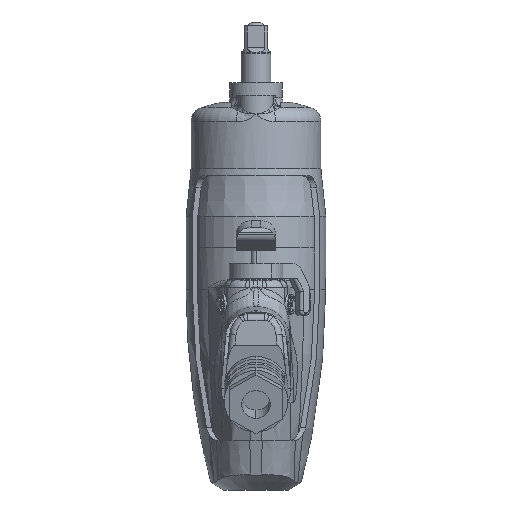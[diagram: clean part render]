
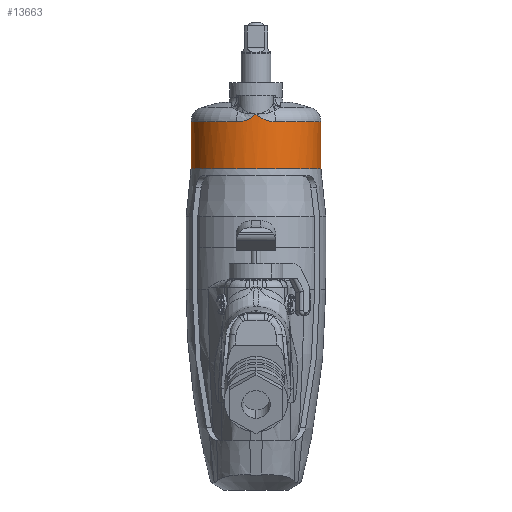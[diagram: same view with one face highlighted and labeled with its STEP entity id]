
A CAD part, front view. The second image highlights one B-rep face of the part: STEP entity #13663.
In plain terms, the highlighted cylindrical face has radius 26 mm (diameter 52 mm), a partial arc.
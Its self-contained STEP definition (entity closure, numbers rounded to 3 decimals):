
#508 = CARTESIAN_POINT ( 'NONE',  ( 0., -26., -30.617 ) ) ;
#1192 = ORIENTED_EDGE ( 'NONE', *, *, #26624, .T. ) ;
#1305 = EDGE_CURVE ( 'NONE', #42749, #52910, #45407, .T. ) ;
#1386 = DIRECTION ( 'NONE',  ( 0., 0., 1. ) ) ;
#1404 = CARTESIAN_POINT ( 'NONE',  ( 5.006, -25.523, -33.342 ) ) ;
#2756 = DIRECTION ( 'NONE',  ( -1., 0., 0. ) ) ;
#4030 = ORIENTED_EDGE ( 'NONE', *, *, #51418, .T. ) ;
#4323 = CARTESIAN_POINT ( 'NONE',  ( -5.011, -25.515, -33.326 ) ) ;
#6223 = CARTESIAN_POINT ( 'NONE',  ( 3.336, -25.787, -32.738 ) ) ;
#8855 = ORIENTED_EDGE ( 'NONE', *, *, #25800, .F. ) ;
#8943 = CARTESIAN_POINT ( 'NONE',  ( -0.56, -26., -31.075 ) ) ;
#9140 = CARTESIAN_POINT ( 'NONE',  ( -6.385, -25.214, -33.616 ) ) ;
#9345 = AXIS2_PLACEMENT_3D ( 'NONE', #24296, #57862, #29111 ) ;
#9429 = CARTESIAN_POINT ( 'NONE',  ( -26., 0., -52.566 ) ) ;
#11043 = CARTESIAN_POINT ( 'NONE',  ( 2.37, -25.894, -32.26 ) ) ;
#11722 = LINE ( 'NONE', #24144, #35723 ) ;
#11751 = CARTESIAN_POINT ( 'NONE',  ( 0., 0., -33.687 ) ) ;
#11935 = EDGE_LOOP ( 'NONE', ( #8855, #46233, #14798, #23996, #4030, #1192, #13876 ) ) ;
#12528 = CARTESIAN_POINT ( 'NONE',  ( 7.774, -24.811, -33.687 ) ) ;
#12967 = VERTEX_POINT ( 'NONE', #46823 ) ;
#13040 = AXIS2_PLACEMENT_3D ( 'NONE', #15300, #24083, #29518 ) ;
#13663 = ADVANCED_FACE ( 'NONE', ( #24455 ), #46945, .T. ) ;
#13876 = ORIENTED_EDGE ( 'NONE', *, *, #18011, .T. ) ;
#13949 = CARTESIAN_POINT ( 'NONE',  ( -7.774, -24.811, -33.687 ) ) ;
#14798 = ORIENTED_EDGE ( 'NONE', *, *, #1305, .T. ) ;
#15300 = CARTESIAN_POINT ( 'NONE',  ( 0., 0., -18. ) ) ;
#15653 = CARTESIAN_POINT ( 'NONE',  ( 26., 0., -18. ) ) ;
#15873 = CARTESIAN_POINT ( 'NONE',  ( 1.141, -25.982, -31.508 ) ) ;
#16598 = DIRECTION ( 'NONE',  ( 1., 0., 0. ) ) ;
#18011 = EDGE_CURVE ( 'NONE', #12967, #21321, #46570, .T. ) ;
#19832 = VERTEX_POINT ( 'NONE', #12528 ) ;
#20502 = CARTESIAN_POINT ( 'NONE',  ( 7.774, -24.811, -33.687 ) ) ;
#20709 = CARTESIAN_POINT ( 'NONE',  ( 0., -26., -30.617 ) ) ;
#21321 = VERTEX_POINT ( 'NONE', #51301 ) ;
#23406 = CARTESIAN_POINT ( 'NONE',  ( -1.14, -25.982, -31.508 ) ) ;
#23996 = ORIENTED_EDGE ( 'NONE', *, *, #43629, .T. ) ;
#24083 = DIRECTION ( 'NONE',  ( 0., 0., 1. ) ) ;
#24144 = CARTESIAN_POINT ( 'NONE',  ( -26., 0., -18. ) ) ;
#24296 = CARTESIAN_POINT ( 'NONE',  ( 0., 0., -33.687 ) ) ;
#24455 = FACE_OUTER_BOUND ( 'NONE', #11935, .T. ) ;
#25277 = CARTESIAN_POINT ( 'NONE',  ( 7.083, -25.019, -33.669 ) ) ;
#25800 = EDGE_CURVE ( 'NONE', #44445, #21321, #11722, .T. ) ;
#26624 = EDGE_CURVE ( 'NONE', #44141, #12967, #61207, .T. ) ;
#28193 = CARTESIAN_POINT ( 'NONE',  ( -3.001, -25.835, -32.602 ) ) ;
#29111 = DIRECTION ( 'NONE',  ( 1., 0., 0. ) ) ;
#29518 = DIRECTION ( 'NONE',  ( 1., 0., 0. ) ) ;
#30076 = CARTESIAN_POINT ( 'NONE',  ( 6.041, -25.291, -33.548 ) ) ;
#31141 = CARTESIAN_POINT ( 'NONE',  ( 26., 0., -52.566 ) ) ;
#31462 = DIRECTION ( 'NONE',  ( 0., 0., 1. ) ) ;
#31631 = EDGE_CURVE ( 'NONE', #44445, #42749, #42955, .T. ) ;
#33024 = CARTESIAN_POINT ( 'NONE',  ( -4.331, -25.639, -33.122 ) ) ;
#33968 = B_SPLINE_CURVE_WITH_KNOTS ( 'NONE', 3,
 ( #20502, #49176, #25277, #58863, #30076, #1404, #34931, #6223, #39749, #11043, #44598, #15873, #49379, #20709 ),
 .UNSPECIFIED., .F., .F.,
 ( 4, 2, 2, 2, 2, 2, 4 ),
 ( 0., 0.001, 0.002, 0.004, 0.005, 0.006, 0.009 ),
 .UNSPECIFIED. ) ;
#34931 = CARTESIAN_POINT ( 'NONE',  ( 4.329, -25.646, -33.139 ) ) ;
#35094 = AXIS2_PLACEMENT_3D ( 'NONE', #60224, #31462, #2756 ) ;
#35723 = VECTOR ( 'NONE', #52850, 1000. ) ;
#37860 = CARTESIAN_POINT ( 'NONE',  ( -5.353, -25.445, -33.411 ) ) ;
#39749 = CARTESIAN_POINT ( 'NONE',  ( 3.009, -25.827, -32.587 ) ) ;
#42709 = CARTESIAN_POINT ( 'NONE',  ( -7.083, -25.027, -33.687 ) ) ;
#42749 = VERTEX_POINT ( 'NONE', #31141 ) ;
#42955 = CIRCLE ( 'NONE', #35094, 26. ) ;
#43629 = EDGE_CURVE ( 'NONE', #52910, #19832, #44722, .T. ) ;
#43901 = VECTOR ( 'NONE', #1386, 1000. ) ;
#44141 = VERTEX_POINT ( 'NONE', #508 ) ;
#44445 = VERTEX_POINT ( 'NONE', #9429 ) ;
#44598 = CARTESIAN_POINT ( 'NONE',  ( 2.058, -25.92, -32.081 ) ) ;
#44722 = CIRCLE ( 'NONE', #59005, 26. ) ;
#45298 = DIRECTION ( 'NONE',  ( 0., 0., -1. ) ) ;
#45407 = LINE ( 'NONE', #15653, #43901 ) ;
#46233 = ORIENTED_EDGE ( 'NONE', *, *, #31631, .T. ) ;
#46570 = CIRCLE ( 'NONE', #9345, 26. ) ;
#46823 = CARTESIAN_POINT ( 'NONE',  ( -7.774, -24.811, -33.687 ) ) ;
#46945 = CYLINDRICAL_SURFACE ( 'NONE', #13040, 26. ) ;
#47291 = CARTESIAN_POINT ( 'NONE',  ( 0., -26., -30.617 ) ) ;
#49176 = CARTESIAN_POINT ( 'NONE',  ( 7.429, -24.919, -33.687 ) ) ;
#49379 = CARTESIAN_POINT ( 'NONE',  ( 0.558, -26., -31.074 ) ) ;
#51301 = CARTESIAN_POINT ( 'NONE',  ( -26., 0., -33.687 ) ) ;
#51418 = EDGE_CURVE ( 'NONE', #19832, #44141, #33968, .T. ) ;
#52850 = DIRECTION ( 'NONE',  ( 0., 0., 1. ) ) ;
#52910 = VERTEX_POINT ( 'NONE', #55841 ) ;
#55841 = CARTESIAN_POINT ( 'NONE',  ( 26., 0., -33.687 ) ) ;
#56971 = CARTESIAN_POINT ( 'NONE',  ( -2.364, -25.9, -32.273 ) ) ;
#57862 = DIRECTION ( 'NONE',  ( 0., 0., -1. ) ) ;
#58863 = CARTESIAN_POINT ( 'NONE',  ( 6.39, -25.205, -33.6 ) ) ;
#59005 = AXIS2_PLACEMENT_3D ( 'NONE', #11751, #45298, #16598 ) ;
#60224 = CARTESIAN_POINT ( 'NONE',  ( 0., 0., -52.566 ) ) ;
#61207 = B_SPLINE_CURVE_WITH_KNOTS ( 'NONE', 3,
 ( #47291, #8943, #23406, #56971, #28193, #61769, #33024, #4323, #37860, #9140, #42709, #13949 ),
 .UNSPECIFIED., .F., .F.,
 ( 4, 2, 2, 2, 2, 4 ),
 ( 0., 0.002, 0.004, 0.005, 0.006, 0.009 ),
 .UNSPECIFIED. ) ;
#61769 = CARTESIAN_POINT ( 'NONE',  ( -3.993, -25.694, -33.003 ) ) ;
